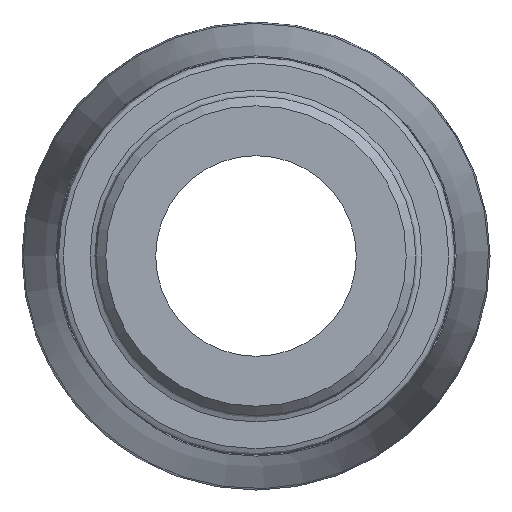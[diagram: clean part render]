
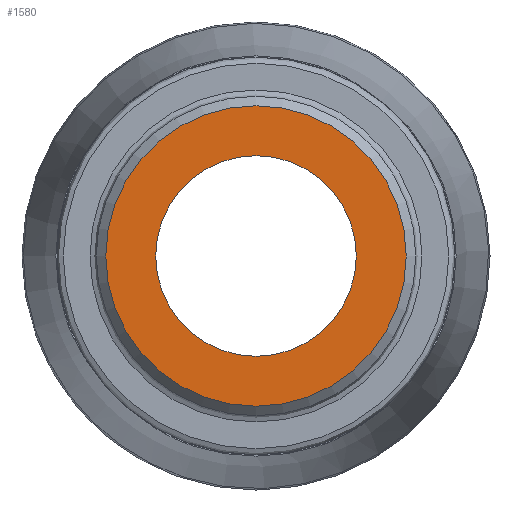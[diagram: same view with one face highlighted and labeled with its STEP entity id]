
A CAD part, left-side view. The second image highlights one B-rep face of the part: STEP entity #1580.
In plain terms, the highlighted planar face has unit normal (-1, 0, 0).
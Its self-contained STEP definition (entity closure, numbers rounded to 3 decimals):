
#261=PLANE('',#1734);
#352=FACE_BOUND('',#496,.T.);
#388=FACE_OUTER_BOUND('',#495,.T.);
#495=EDGE_LOOP('',(#1222));
#496=EDGE_LOOP('',(#1223));
#626=CIRCLE('',#1730,22.467);
#629=CIRCLE('',#1735,15.);
#736=VERTEX_POINT('',#2808);
#739=VERTEX_POINT('',#2816);
#914=EDGE_CURVE('',#736,#736,#626,.T.);
#917=EDGE_CURVE('',#739,#739,#629,.T.);
#1222=ORIENTED_EDGE('',*,*,#914,.F.);
#1223=ORIENTED_EDGE('',*,*,#917,.T.);
#1580=ADVANCED_FACE('',(#388,#352),#261,.T.);
#1730=AXIS2_PLACEMENT_3D('',#2809,#2013,#2014);
#1734=AXIS2_PLACEMENT_3D('',#2815,#2021,#2022);
#1735=AXIS2_PLACEMENT_3D('',#2817,#2023,#2024);
#2013=DIRECTION('center_axis',(1.,0.,0.));
#2014=DIRECTION('ref_axis',(0.,-1.,0.));
#2021=DIRECTION('center_axis',(-1.,0.,0.));
#2022=DIRECTION('ref_axis',(0.,0.,1.));
#2023=DIRECTION('center_axis',(1.,0.,0.));
#2024=DIRECTION('ref_axis',(0.,0.,-1.));
#2808=CARTESIAN_POINT('',(0.,22.467,0.));
#2809=CARTESIAN_POINT('Origin',(0.,0.,0.));
#2815=CARTESIAN_POINT('Origin',(0.,23.902,0.));
#2816=CARTESIAN_POINT('',(0.,15.,0.));
#2817=CARTESIAN_POINT('Origin',(0.,0.,0.));
